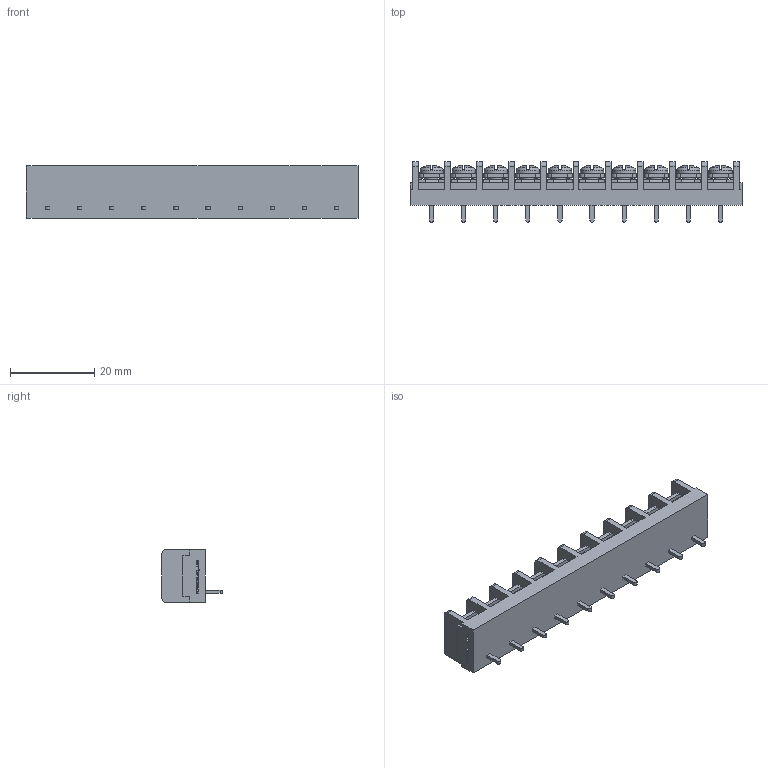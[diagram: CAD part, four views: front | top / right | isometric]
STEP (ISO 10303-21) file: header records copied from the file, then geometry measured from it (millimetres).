
FILE_DESCRIPTION(/* description */ ('Alibre Inc.'),/* implementation_level */ '2;1');
FILE_NAME(/* name */ 'export0',/* time_stamp */ '2015-10-26T17:27:23+09:00',/* author */ (''),/* organization */ (''),/* preprocessor_version */ 'ST-DEVELOPER v14',/* originating_system */ 'Alibre',/* authorisation */ '');
FILE_SCHEMA (('CONFIG_CONTROL_DESIGN'));
Length unit declared in the file: centimetre
Products named in the file (1): ID_1
Bounding box: 78.82 x 14.3 x 12.5 mm (x, y, z)
Volume: 7117.7 mm3; surface area: 6424.2 mm2
Topology: 1 solids, 1 shells, 1366 faces, 3762 edges, 2478 vertices
Faces by surface type: plane 1060, cylinder 122, bspline 104, cone 40, torus 20, sphere 20
Full cylindrical faces by diameter (mm): 3 x10, 5.5 x10
Entity records: 41215 total; most frequent: CARTESIAN_POINT 9125, ORIENTED_EDGE 7364, DIRECTION 5096, EDGE_CURVE 3682, VECTOR 2620, LINE 2620, VERTEX_POINT 2438, AXIS2_PLACEMENT_3D 1719
